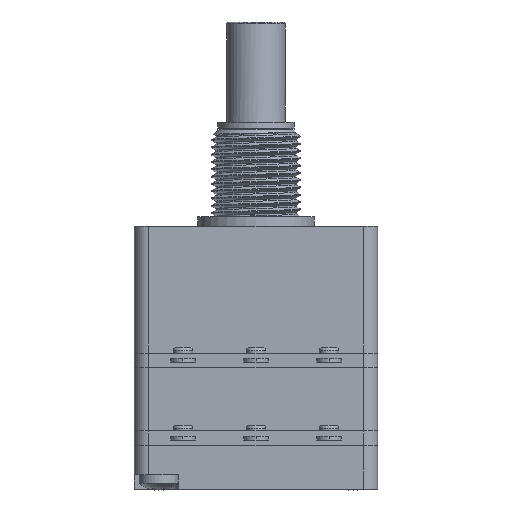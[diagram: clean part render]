
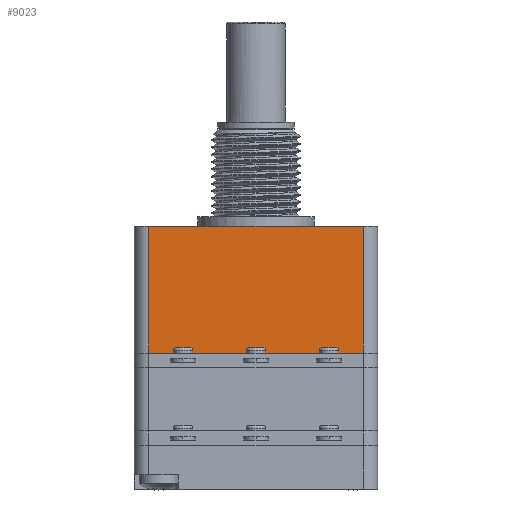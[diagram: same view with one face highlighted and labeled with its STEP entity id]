
A CAD part, front view. The second image highlights one B-rep face of the part: STEP entity #9023.
In plain terms, the highlighted planar face has unit normal (0, -1, 0).
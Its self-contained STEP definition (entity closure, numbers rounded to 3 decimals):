
#5258 = PLANE('',#5259);
#5259 = AXIS2_PLACEMENT_3D('',#5260,#5261,#5262);
#5260 = CARTESIAN_POINT('',(-12.5,-18.,-14.));
#5261 = DIRECTION('',(0.,0.,1.));
#5262 = DIRECTION('',(1.,0.,0.));
#7503 = VERTEX_POINT('',#7504);
#7504 = CARTESIAN_POINT('',(11.,-12.5,-14.));
#7519 = CYLINDRICAL_SURFACE('',#7520,1.5);
#7520 = AXIS2_PLACEMENT_3D('',#7521,#7522,#7523);
#7521 = CARTESIAN_POINT('',(11.,-11.,-14.));
#7522 = DIRECTION('',(0.,0.,1.));
#7523 = DIRECTION('',(0.,-1.,0.));
#7531 = EDGE_CURVE('',#7532,#7503,#7534,.T.);
#7532 = VERTEX_POINT('',#7533);
#7533 = CARTESIAN_POINT('',(-11.,-12.5,-14.));
#7534 = SURFACE_CURVE('',#7535,(#7539,#7546),.PCURVE_S1.);
#7535 = LINE('',#7536,#7537);
#7536 = CARTESIAN_POINT('',(-12.5,-12.5,-14.));
#7537 = VECTOR('',#7538,1.);
#7538 = DIRECTION('',(1.,0.,0.));
#7539 = PCURVE('',#5258,#7540);
#7540 = DEFINITIONAL_REPRESENTATION('',(#7541),#7545);
#7541 = LINE('',#7542,#7543);
#7542 = CARTESIAN_POINT('',(0.,5.5));
#7543 = VECTOR('',#7544,1.);
#7544 = DIRECTION('',(1.,0.));
#7545 = ( GEOMETRIC_REPRESENTATION_CONTEXT(2) 
PARAMETRIC_REPRESENTATION_CONTEXT() REPRESENTATION_CONTEXT('2D SPACE',''
  ) );
#7546 = PCURVE('',#7547,#7552);
#7547 = PLANE('',#7548);
#7548 = AXIS2_PLACEMENT_3D('',#7549,#7550,#7551);
#7549 = CARTESIAN_POINT('',(-12.5,-12.5,-14.));
#7550 = DIRECTION('',(0.,1.,0.));
#7551 = DIRECTION('',(0.,0.,1.));
#7552 = DEFINITIONAL_REPRESENTATION('',(#7553),#7557);
#7553 = LINE('',#7554,#7555);
#7554 = CARTESIAN_POINT('',(0.,0.));
#7555 = VECTOR('',#7556,1.);
#7556 = DIRECTION('',(0.,1.));
#7557 = ( GEOMETRIC_REPRESENTATION_CONTEXT(2) 
PARAMETRIC_REPRESENTATION_CONTEXT() REPRESENTATION_CONTEXT('2D SPACE',''
  ) );
#7574 = CYLINDRICAL_SURFACE('',#7575,1.5);
#7575 = AXIS2_PLACEMENT_3D('',#7576,#7577,#7578);
#7576 = CARTESIAN_POINT('',(-11.,-11.,-14.));
#7577 = DIRECTION('',(0.,0.,1.));
#7578 = DIRECTION('',(-1.,0.,0.));
#7712 = PLANE('',#7713);
#7713 = AXIS2_PLACEMENT_3D('',#7714,#7715,#7716);
#7714 = CARTESIAN_POINT('',(-12.5,-12.5,-1.));
#7715 = DIRECTION('',(0.,0.,1.));
#7716 = DIRECTION('',(1.,0.,0.));
#8956 = EDGE_CURVE('',#7532,#8957,#8959,.T.);
#8957 = VERTEX_POINT('',#8958);
#8958 = CARTESIAN_POINT('',(-11.,-12.5,-1.));
#8959 = SURFACE_CURVE('',#8960,(#8964,#8971),.PCURVE_S1.);
#8960 = LINE('',#8961,#8962);
#8961 = CARTESIAN_POINT('',(-11.,-12.5,-14.));
#8962 = VECTOR('',#8963,1.);
#8963 = DIRECTION('',(0.,0.,1.));
#8964 = PCURVE('',#7574,#8965);
#8965 = DEFINITIONAL_REPRESENTATION('',(#8966),#8970);
#8966 = LINE('',#8967,#8968);
#8967 = CARTESIAN_POINT('',(1.571,0.));
#8968 = VECTOR('',#8969,1.);
#8969 = DIRECTION('',(0.,1.));
#8970 = ( GEOMETRIC_REPRESENTATION_CONTEXT(2) 
PARAMETRIC_REPRESENTATION_CONTEXT() REPRESENTATION_CONTEXT('2D SPACE',''
  ) );
#8971 = PCURVE('',#7547,#8972);
#8972 = DEFINITIONAL_REPRESENTATION('',(#8973),#8977);
#8973 = LINE('',#8974,#8975);
#8974 = CARTESIAN_POINT('',(0.,1.5));
#8975 = VECTOR('',#8976,1.);
#8976 = DIRECTION('',(1.,0.));
#8977 = ( GEOMETRIC_REPRESENTATION_CONTEXT(2) 
PARAMETRIC_REPRESENTATION_CONTEXT() REPRESENTATION_CONTEXT('2D SPACE',''
  ) );
#9023 = ADVANCED_FACE('',(#9024),#7547,.F.);
#9024 = FACE_BOUND('',#9025,.F.);
#9025 = EDGE_LOOP('',(#9026,#9027,#9028,#9051));
#9026 = ORIENTED_EDGE('',*,*,#7531,.F.);
#9027 = ORIENTED_EDGE('',*,*,#8956,.T.);
#9028 = ORIENTED_EDGE('',*,*,#9029,.T.);
#9029 = EDGE_CURVE('',#8957,#9030,#9032,.T.);
#9030 = VERTEX_POINT('',#9031);
#9031 = CARTESIAN_POINT('',(11.,-12.5,-1.));
#9032 = SURFACE_CURVE('',#9033,(#9037,#9044),.PCURVE_S1.);
#9033 = LINE('',#9034,#9035);
#9034 = CARTESIAN_POINT('',(-12.5,-12.5,-1.));
#9035 = VECTOR('',#9036,1.);
#9036 = DIRECTION('',(1.,0.,0.));
#9037 = PCURVE('',#7547,#9038);
#9038 = DEFINITIONAL_REPRESENTATION('',(#9039),#9043);
#9039 = LINE('',#9040,#9041);
#9040 = CARTESIAN_POINT('',(13.,0.));
#9041 = VECTOR('',#9042,1.);
#9042 = DIRECTION('',(0.,1.));
#9043 = ( GEOMETRIC_REPRESENTATION_CONTEXT(2) 
PARAMETRIC_REPRESENTATION_CONTEXT() REPRESENTATION_CONTEXT('2D SPACE',''
  ) );
#9044 = PCURVE('',#7712,#9045);
#9045 = DEFINITIONAL_REPRESENTATION('',(#9046),#9050);
#9046 = LINE('',#9047,#9048);
#9047 = CARTESIAN_POINT('',(0.,0.));
#9048 = VECTOR('',#9049,1.);
#9049 = DIRECTION('',(1.,0.));
#9050 = ( GEOMETRIC_REPRESENTATION_CONTEXT(2) 
PARAMETRIC_REPRESENTATION_CONTEXT() REPRESENTATION_CONTEXT('2D SPACE',''
  ) );
#9051 = ORIENTED_EDGE('',*,*,#9052,.F.);
#9052 = EDGE_CURVE('',#7503,#9030,#9053,.T.);
#9053 = SURFACE_CURVE('',#9054,(#9058,#9065),.PCURVE_S1.);
#9054 = LINE('',#9055,#9056);
#9055 = CARTESIAN_POINT('',(11.,-12.5,-14.));
#9056 = VECTOR('',#9057,1.);
#9057 = DIRECTION('',(0.,0.,1.));
#9058 = PCURVE('',#7547,#9059);
#9059 = DEFINITIONAL_REPRESENTATION('',(#9060),#9064);
#9060 = LINE('',#9061,#9062);
#9061 = CARTESIAN_POINT('',(0.,23.5));
#9062 = VECTOR('',#9063,1.);
#9063 = DIRECTION('',(1.,0.));
#9064 = ( GEOMETRIC_REPRESENTATION_CONTEXT(2) 
PARAMETRIC_REPRESENTATION_CONTEXT() REPRESENTATION_CONTEXT('2D SPACE',''
  ) );
#9065 = PCURVE('',#7519,#9066);
#9066 = DEFINITIONAL_REPRESENTATION('',(#9067),#9071);
#9067 = LINE('',#9068,#9069);
#9068 = CARTESIAN_POINT('',(0.,0.));
#9069 = VECTOR('',#9070,1.);
#9070 = DIRECTION('',(0.,1.));
#9071 = ( GEOMETRIC_REPRESENTATION_CONTEXT(2) 
PARAMETRIC_REPRESENTATION_CONTEXT() REPRESENTATION_CONTEXT('2D SPACE',''
  ) );
